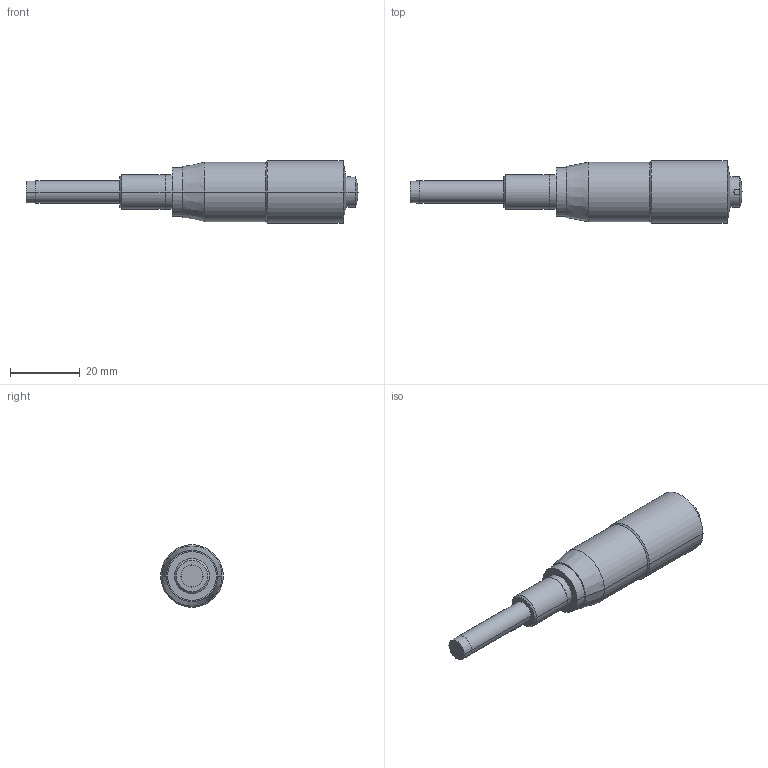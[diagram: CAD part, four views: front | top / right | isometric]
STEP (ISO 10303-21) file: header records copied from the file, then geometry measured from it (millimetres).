
FILE_DESCRIPTION(('Creo Elements/Direct Modeling STEP Export'),'2;1');
FILE_NAME('150-196_MHN1-25T.stp','2014-02-06T18:57:22',(''),(''),'Creo Elements/Direct Modeling STEP processor for AP214 (Solid Model)','Creo Elements/Direct Modeling 18.1B 29-Sep-2012 (C) Parametric Technology GmbH','');
FILE_SCHEMA(('AUTOMOTIVE_DESIGN { 1 0 10303 214 1 1 1 1 }'));
Length unit declared in the file: millimetre
Products named in the file (1): 150-196_MHN1-25T
Bounding box: 95.5 x 18 x 18 mm (x, y, z)
Volume: 13802.9 mm3; surface area: 4195.2 mm2
Topology: 1 solids, 1 shells, 35 faces, 70 edges, 41 vertices
Faces by surface type: cylinder 16, cone 10, plane 7, sphere 2
Entity records: 1098 total; most frequent: CARTESIAN_POINT 397, DIRECTION 142, ORIENTED_EDGE 136, EDGE_CURVE 68, AXIS2_PLACEMENT_3D 58, VERTEX_POINT 41, EDGE_LOOP 41, FACE_OUTER_BOUND 35
